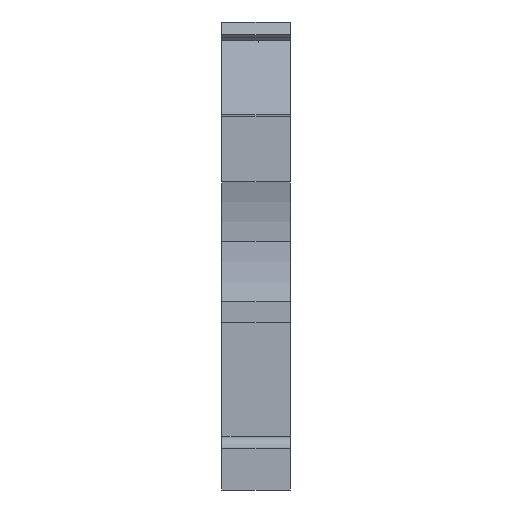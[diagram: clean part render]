
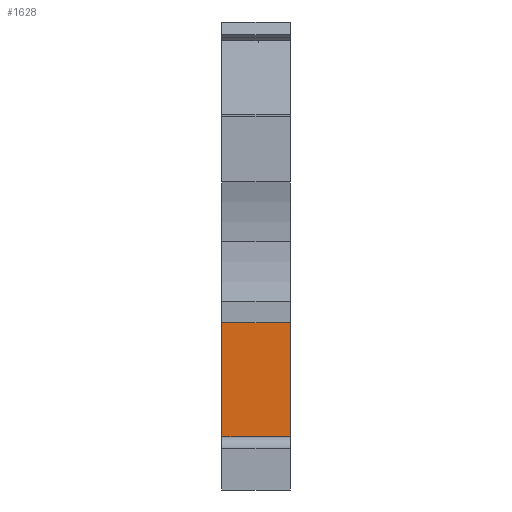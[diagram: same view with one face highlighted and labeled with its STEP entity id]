
A CAD part, front view. The second image highlights one B-rep face of the part: STEP entity #1628.
In plain terms, the highlighted planar face has unit normal (0, -1, 0).
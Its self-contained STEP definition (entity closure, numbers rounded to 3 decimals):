
#34=CARTESIAN_POINT('',(-0.,3.6,4.));
#35=VERTEX_POINT('',#34);
#42=CARTESIAN_POINT('',(0.,3.6,12.6));
#43=VERTEX_POINT('',#42);
#44=CARTESIAN_POINT('',(-0.,3.6,4.));
#45=DIRECTION('',(0.,-0.,1.));
#46=VECTOR('',#45,8.6);
#47=LINE('',#44,#46);
#48=EDGE_CURVE('',#35,#43,#47,.T.);
#1188=CARTESIAN_POINT('',(5.15,3.6,12.6));
#1189=VERTEX_POINT('',#1188);
#1196=CARTESIAN_POINT('',(5.15,3.6,1.5));
#1197=VERTEX_POINT('',#1196);
#1198=CARTESIAN_POINT('',(5.15,3.6,1.5));
#1199=DIRECTION('',(0.,-0.,1.));
#1200=VECTOR('',#1199,11.1);
#1201=LINE('',#1198,#1200);
#1202=EDGE_CURVE('',#1197,#1189,#1201,.T.);
#1481=CARTESIAN_POINT('',(1.,3.6,1.5));
#1482=VERTEX_POINT('',#1481);
#1483=CARTESIAN_POINT('',(5.15,3.6,1.5));
#1484=DIRECTION('',(-1.,-0.,0.));
#1485=VECTOR('',#1484,4.15);
#1486=LINE('',#1483,#1485);
#1487=EDGE_CURVE('',#1197,#1482,#1486,.T.);
#1545=CARTESIAN_POINT('',(1.,3.6,4.));
#1546=VERTEX_POINT('',#1545);
#1547=CARTESIAN_POINT('',(1.,3.6,4.));
#1548=DIRECTION('',(-0.,0.,-1.));
#1549=VECTOR('',#1548,2.5);
#1550=LINE('',#1547,#1549);
#1551=EDGE_CURVE('',#1546,#1482,#1550,.T.);
#1599=CARTESIAN_POINT('',(-0.,3.6,4.));
#1600=DIRECTION('',(1.,0.,-0.));
#1601=VECTOR('',#1600,1.);
#1602=LINE('',#1599,#1601);
#1603=EDGE_CURVE('',#35,#1546,#1602,.T.);
#1610=CARTESIAN_POINT('',(5.15,3.6,5.));
#1611=DIRECTION('',(0.,-1.,-0.));
#1612=DIRECTION('',(0.,-0.,1.));
#1613=AXIS2_PLACEMENT_3D('',#1610,#1611,#1612);
#1614=PLANE('',#1613);
#1615=CARTESIAN_POINT('',(0.,3.6,12.6));
#1616=DIRECTION('',(1.,0.,-0.));
#1617=VECTOR('',#1616,5.15);
#1618=LINE('',#1615,#1617);
#1619=EDGE_CURVE('',#43,#1189,#1618,.T.);
#1620=ORIENTED_EDGE('',*,*,#1619,.F.);
#1621=ORIENTED_EDGE('',*,*,#48,.F.);
#1622=ORIENTED_EDGE('',*,*,#1603,.T.);
#1623=ORIENTED_EDGE('',*,*,#1551,.T.);
#1624=ORIENTED_EDGE('',*,*,#1487,.F.);
#1625=ORIENTED_EDGE('',*,*,#1202,.T.);
#1626=EDGE_LOOP('',(#1620,#1621,#1622,#1623,#1624,#1625));
#1627=FACE_BOUND('',#1626,.T.);
#1628=ADVANCED_FACE('',(#1627),#1614,.T.);
